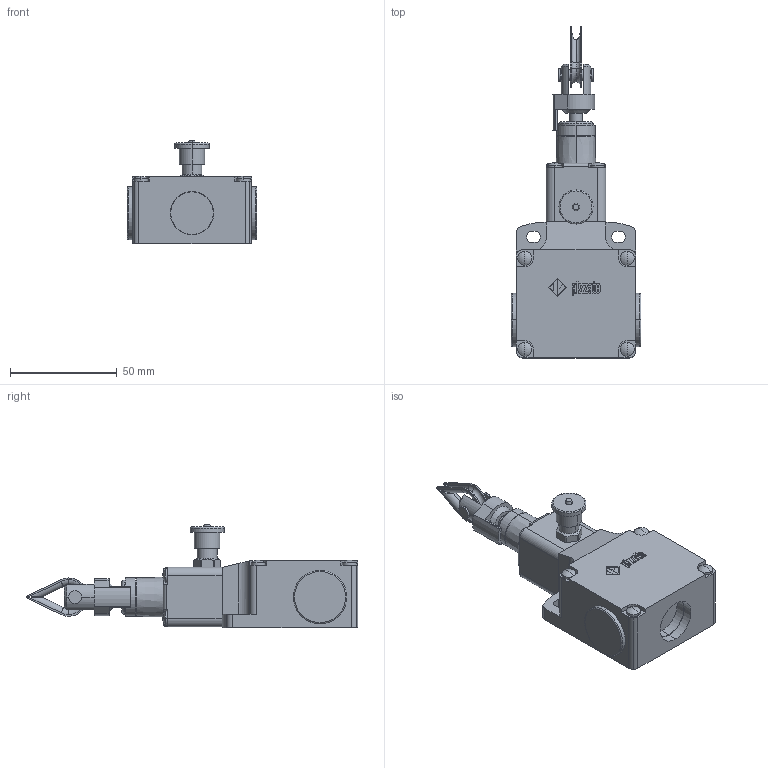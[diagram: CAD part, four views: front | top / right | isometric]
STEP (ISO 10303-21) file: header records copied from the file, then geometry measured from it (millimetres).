
FILE_DESCRIPTION (( 'STEP AP214' ), '1' );
FILE_NAME ('ZF_STEP_FL_x78_A10.step', '2014-04-10T09:06:59', ( 'utente' ), ( 'Microsoft' ), 'SwSTEP 2.0', 'SolidWorks 2013', '' );
FILE_SCHEMA (( 'AUTOMOTIVE_DESIGN' ));
Length unit declared in the file: millimetre
Products named in the file (7): ZF_STEP_VF_T78_A10; Pizzato_Redance_T78-83-84; Pizzato_Tirante_T78_T79; Pizzato_Supporto_T78-T79_T78; Pizzato_Tappo_Protezione_PG13_M20_PG13; Pizzato_Custodia_FL; ZF_STEP_FL_x78_A10
Assembly tree (7 placements, depth 3):
  ZF_STEP_FL_x78_A10
    Pizzato_Custodia_FL
    Pizzato_Tappo_Protezione_PG13_M20_PG13  x2
    ZF_STEP_VF_T78_A10
      Pizzato_Supporto_T78-T79_T78
      Pizzato_Tirante_T78_T79
      Pizzato_Redance_T78-83-84
Bounding box: 60.8 x 155.8 x 48.8 mm (x, y, z)
Volume: 131175.7 mm3; surface area: 31080.3 mm2
Topology: 6 solids, 6 shells, 565 faces, 1434 edges, 945 vertices
Faces by surface type: plane 295, cylinder 150, bspline 73, torus 20, sphere 16, cone 11
Entity records: 20611 total; most frequent: CARTESIAN_POINT 7081, ORIENTED_EDGE 2836, DIRECTION 2585, EDGE_CURVE 1418, VERTEX_POINT 935, LINE 899, VECTOR 899, AXIS2_PLACEMENT_3D 843
